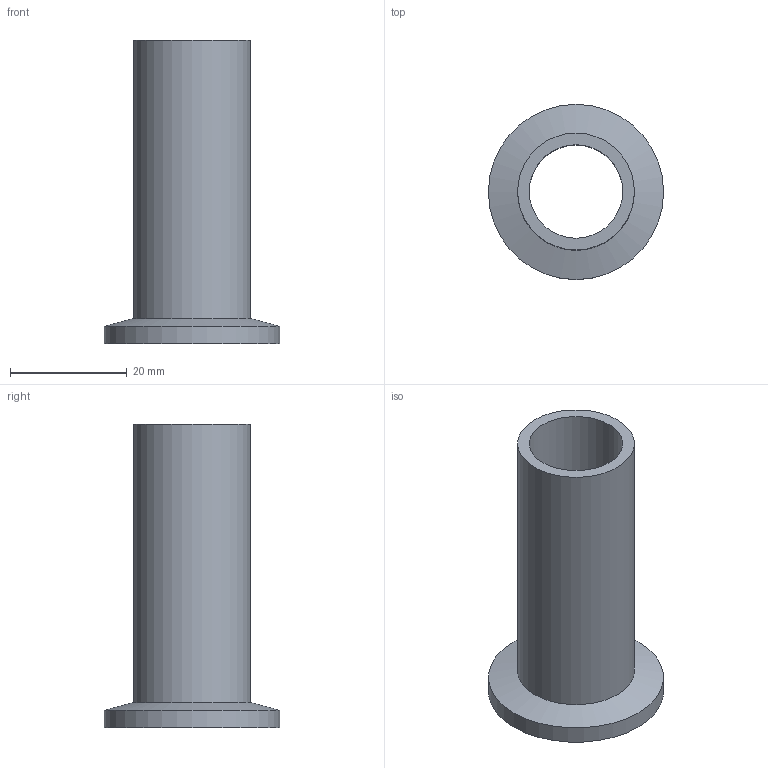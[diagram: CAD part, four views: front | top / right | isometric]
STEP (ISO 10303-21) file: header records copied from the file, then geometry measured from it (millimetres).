
FILE_DESCRIPTION( ( 'Unknown' ), '1' );
FILE_NAME( 'X:/Daten ( aktueller Bestand )/Projekte und Zeichnungen/Solid Edge/2 Bauteile KF/Stahl/KF mit Rohransatz Stahl lang/1562.stp', 'Unknown', ( 'Unknown' ), ( 'Unknown' ), 'XStep 1.0', 'Unknown', ' ' );
FILE_SCHEMA( ( 'automotive_design' ) );
Length unit declared in the file: millimetre
Products named in the file (1): 1
Bounding box: 30 x 30 x 52 mm (x, y, z)
Volume: 7226.5 mm3; surface area: 6926 mm2
Topology: 1 solids, 1 shells, 8 faces, 13 edges, 8 vertices
Faces by surface type: cylinder 4, plane 3, cone 1
Full cylindrical faces by diameter (mm): 16 x1, 17.2 x1, 20 x1, 30 x1
Entity records: 248 total; most frequent: DIRECTION 34, CARTESIAN_POINT 25, AXIS2_PLACEMENT_3D 17, EDGE_LOOP 16, ORIENTED_EDGE 16, FACE_OUTER_BOUND 12, STYLED_ITEM 8, PRESENTATION_STYLE_ASSIGNMENT 8
